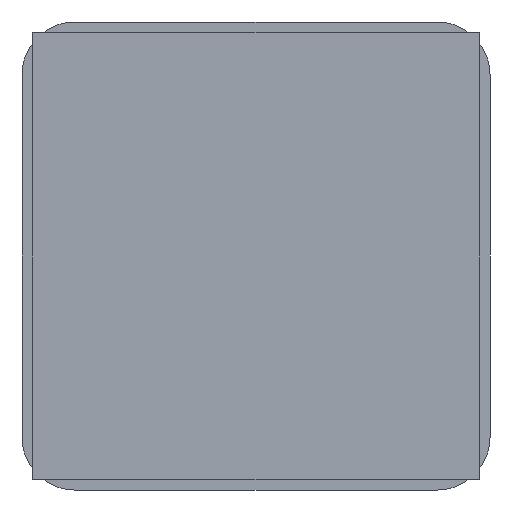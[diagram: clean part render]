
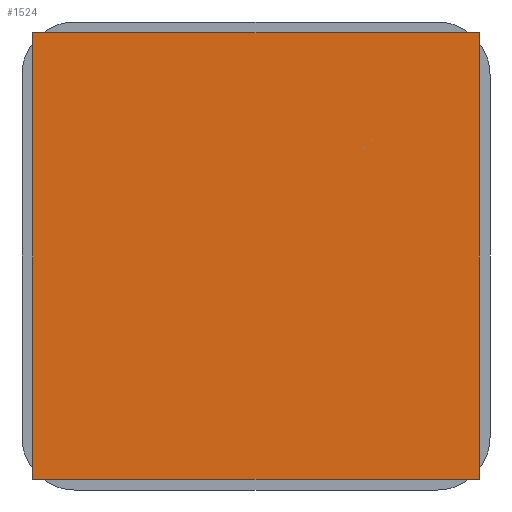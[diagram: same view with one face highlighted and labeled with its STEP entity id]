
A CAD part, front view. The second image highlights one B-rep face of the part: STEP entity #1524.
In plain terms, the highlighted planar face has unit normal (0, -1, 0).
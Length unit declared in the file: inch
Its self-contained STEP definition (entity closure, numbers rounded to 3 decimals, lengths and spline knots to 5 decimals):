
#257 = VECTOR ( 'NONE', #8523, 39.37008 ) ;
#402 = CARTESIAN_POINT ( 'NONE',  ( 0.5, -0.005, 0.5 ) ) ;
#455 = EDGE_LOOP ( 'NONE', ( #764, #4077, #4767, #8508 ) ) ;
#764 = ORIENTED_EDGE ( 'NONE', *, *, #3204, .F. ) ;
#1143 = VERTEX_POINT ( 'NONE', #402 ) ;
#1223 = CARTESIAN_POINT ( 'NONE',  ( -0.5, -0.005, -0.5 ) ) ;
#1524 = ADVANCED_FACE ( 'NONE', ( #4479 ), #7133, .F. ) ;
#2265 = VERTEX_POINT ( 'NONE', #6589 ) ;
#2284 = LINE ( 'NONE', #6137, #4583 ) ;
#2542 = VERTEX_POINT ( 'NONE', #1223 ) ;
#2553 = EDGE_CURVE ( 'NONE', #2265, #2542, #6859, .T. ) ;
#3204 = EDGE_CURVE ( 'NONE', #2542, #5204, #6553, .T. ) ;
#3277 = VECTOR ( 'NONE', #8558, 39.37008 ) ;
#3711 = VECTOR ( 'NONE', #4970, 39.37008 ) ;
#4077 = ORIENTED_EDGE ( 'NONE', *, *, #2553, .F. ) ;
#4282 = CARTESIAN_POINT ( 'NONE',  ( -0.5, -0.005, -0.5 ) ) ;
#4479 = FACE_OUTER_BOUND ( 'NONE', #455, .T. ) ;
#4583 = VECTOR ( 'NONE', #6945, 39.37008 ) ;
#4767 = ORIENTED_EDGE ( 'NONE', *, *, #6914, .F. ) ;
#4970 = DIRECTION ( 'NONE',  ( -1., 0., 0. ) ) ;
#5043 = EDGE_CURVE ( 'NONE', #5204, #1143, #5079, .T. ) ;
#5079 = LINE ( 'NONE', #6508, #257 ) ;
#5131 = DIRECTION ( 'NONE',  ( 0., 0., 1. ) ) ;
#5204 = VERTEX_POINT ( 'NONE', #7043 ) ;
#5759 = CARTESIAN_POINT ( 'NONE',  ( -0.5, -0.005, -0.5 ) ) ;
#6137 = CARTESIAN_POINT ( 'NONE',  ( 0.5, -0.005, -0.5 ) ) ;
#6290 = CARTESIAN_POINT ( 'NONE',  ( -0.5, -0.005, 0.5 ) ) ;
#6508 = CARTESIAN_POINT ( 'NONE',  ( -0.5, -0.005, 0.5 ) ) ;
#6553 = LINE ( 'NONE', #5759, #3277 ) ;
#6589 = CARTESIAN_POINT ( 'NONE',  ( 0.5, -0.005, -0.5 ) ) ;
#6775 = AXIS2_PLACEMENT_3D ( 'NONE', #6290, #7767, #5131 ) ;
#6859 = LINE ( 'NONE', #4282, #3711 ) ;
#6914 = EDGE_CURVE ( 'NONE', #1143, #2265, #2284, .T. ) ;
#6945 = DIRECTION ( 'NONE',  ( 0., 0., -1. ) ) ;
#7043 = CARTESIAN_POINT ( 'NONE',  ( -0.5, -0.005, 0.5 ) ) ;
#7133 = PLANE ( 'NONE',  #6775 ) ;
#7767 = DIRECTION ( 'NONE',  ( 0., 1., 0. ) ) ;
#8508 = ORIENTED_EDGE ( 'NONE', *, *, #5043, .F. ) ;
#8523 = DIRECTION ( 'NONE',  ( 1., 0., 0. ) ) ;
#8558 = DIRECTION ( 'NONE',  ( 0., 0., 1. ) ) ;
